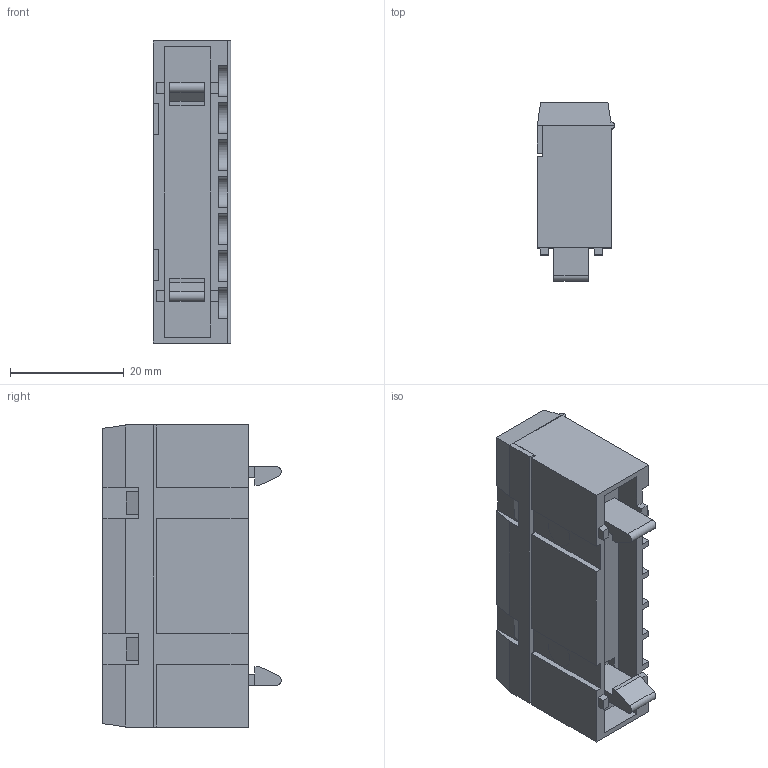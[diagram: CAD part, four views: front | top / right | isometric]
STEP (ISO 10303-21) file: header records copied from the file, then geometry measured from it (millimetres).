
FILE_DESCRIPTION (( 'STEP AP214' ), '1' );
FILE_NAME ('CS-L7.step', '2012-10-18T10:35:34', ( 'Radek Veselý' ), ( 'Siemens and Partners' ), 'SwSTEP 2.0', 'SolidWorks 2011', '' );
FILE_SCHEMA (( 'AUTOMOTIVE_DESIGN' ));
Length unit declared in the file: millimetre
Products named in the file (1): CS-L7
Bounding box: 13.6 x 31.3 x 53 mm (x, y, z)
Volume: 11236.4 mm3; surface area: 14309 mm2
Topology: 9 solids, 9 shells, 354 faces, 971 edges, 630 vertices
Faces by surface type: plane 232, cylinder 66, cone 42, bspline 14
Entity records: 16277 total; most frequent: CARTESIAN_POINT 3222, ORIENTED_EDGE 1942, DIRECTION 1785, EDGE_CURVE 971, LINE 685, VECTOR 685, VERTEX_POINT 630, AXIS2_PLACEMENT_3D 550
